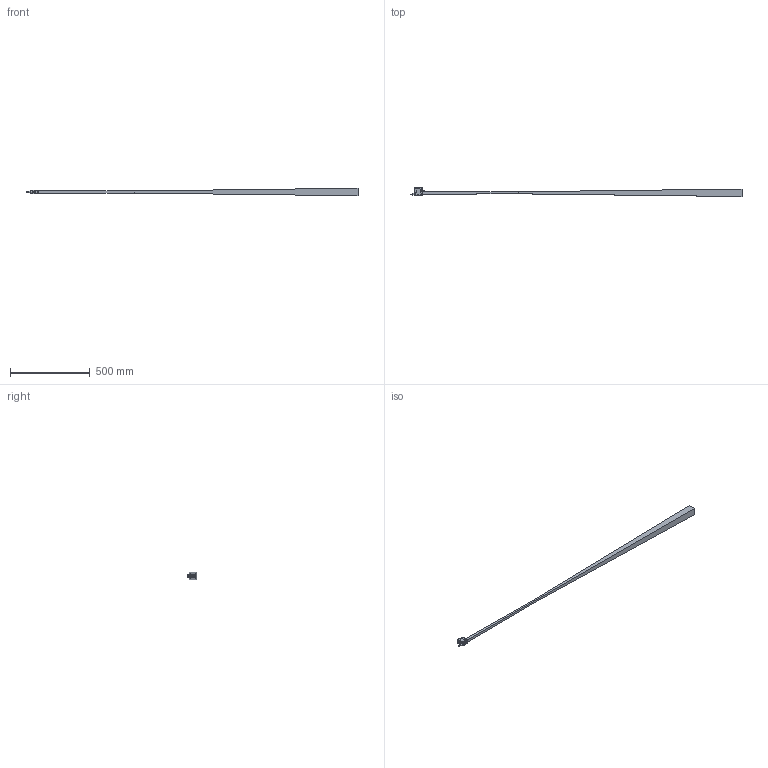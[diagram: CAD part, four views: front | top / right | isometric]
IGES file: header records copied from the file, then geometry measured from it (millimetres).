
Global section: file name: 622-21004_FT 55-R-NS-K4; native system: Autodesk Inventor 2023; preprocessor: unknown; author: Sandra.Stahl; date: 20231006.104819; units: millimetre
Bounding box: 2077.38 x 56.9 x 47 mm (x, y, z)
Volume: 1593721.5 mm3; surface area: 218810.7 mm2
Topology: 5 solids, 5 shells, 177 faces, 427 edges, 271 vertices
Faces by surface type: bspline 177
